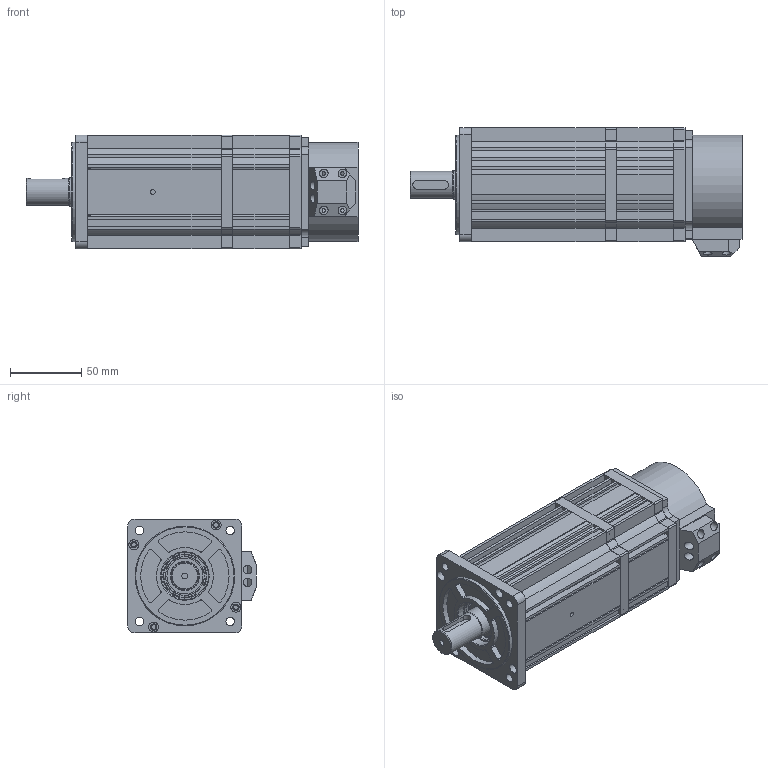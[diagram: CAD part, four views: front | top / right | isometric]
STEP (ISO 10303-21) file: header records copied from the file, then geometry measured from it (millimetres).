
FILE_DESCRIPTION (( 'STEP AP203' ), '1' );
FILE_NAME ('80-02430- 抱闸.STEP', '2019-12-11T08:14:43', ( '微软用户' ), ( '微软中国' ), 'SwSTEP 2.0', 'SolidWorks 2016', '' );
FILE_SCHEMA (( 'CONFIG_CONTROL_DESIGN' ));
Length unit declared in the file: millimetre
Products named in the file (1): 80-02430- 惕掅
Bounding box: 233 x 90 x 80 mm (x, y, z)
Surface area: 107134.7 mm2 (no closed solid volume)
Topology: 0 solids, 11 shells, 431 faces, 1359 edges, 953 vertices
Faces by surface type: plane 256, cylinder 145, sphere 18, torus 8, cone 4
Full cylindrical faces by diameter (mm): 3.3 x1, 3.5 x4, 4.2 x1, 6 x10, 7 x7, 19 x1, 20 x1, 27.19 x1, 31 x1, 31.8 x1, 33 x1, 70 x1
Entity records: 17095 total; most frequent: CARTESIAN_POINT 5012, DIRECTION 2483, ORIENTED_EDGE 2295, EDGE_CURVE 1310, VERTEX_POINT 940, AXIS2_PLACEMENT_3D 843, VECTOR 797, LINE 797
